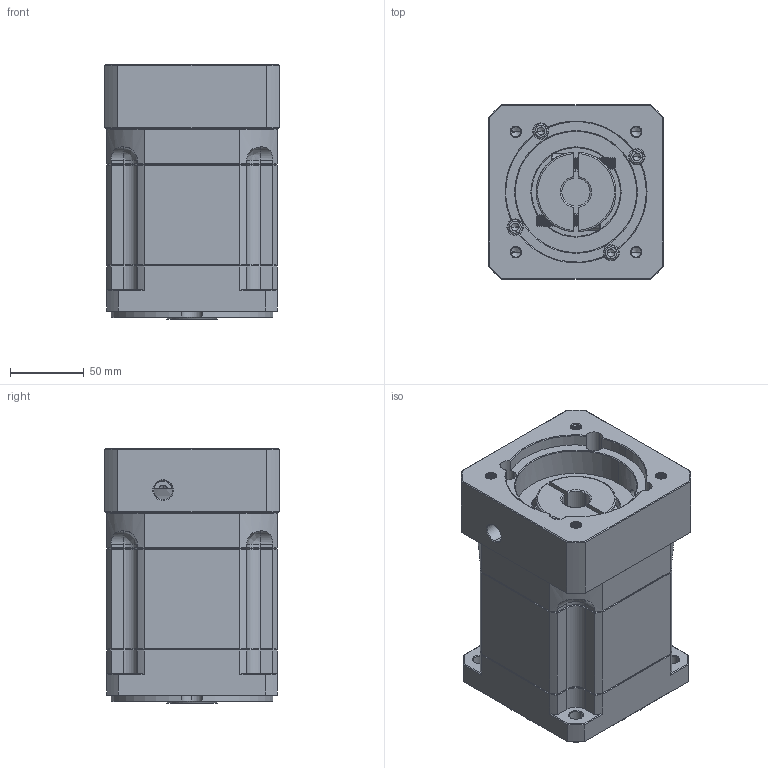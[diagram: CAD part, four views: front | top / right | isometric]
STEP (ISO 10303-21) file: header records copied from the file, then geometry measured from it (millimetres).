
FILE_DESCRIPTION (( 'STEP AP214' ), '1' );
FILE_NAME ('ZB115A-K25-L2-P2-19-95-115-M8.step', '2023-08-26T06:36:54', ( '' ), ( '' ), 'SwSTEP 2.0', 'SolidWorks 2016', '' );
FILE_SCHEMA (( 'AUTOMOTIVE_DESIGN' ));
Length unit declared in the file: millimetre
Products named in the file (1): ZB115A-K25-L2-P2-19-95-115-M8
Bounding box: 118 x 118 x 172 mm (x, y, z)
Volume: 1875093.9 mm3; surface area: 179152 mm2
Topology: 6 solids, 6 shells, 2365 faces, 6256 edges, 3985 vertices
Faces by surface type: plane 1137, bspline 434, cylinder 417, cone 377
Entity records: 125066 total; most frequent: CARTESIAN_POINT 43887, ORIENTED_EDGE 12448, DIRECTION 9888, EDGE_CURVE 6224, VERTEX_POINT 3985, LINE 3960, VECTOR 3960, AXIS2_PLACEMENT_3D 2964
